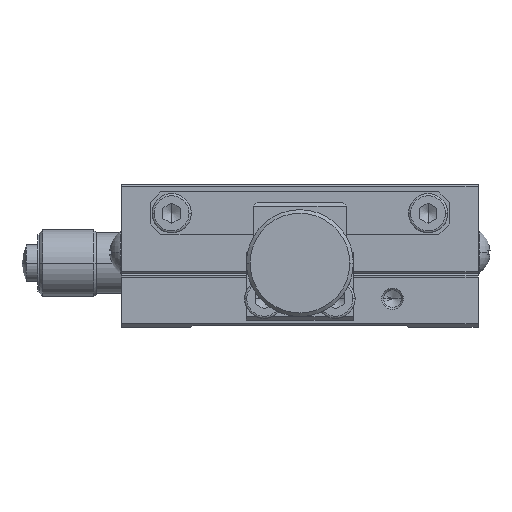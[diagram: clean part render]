
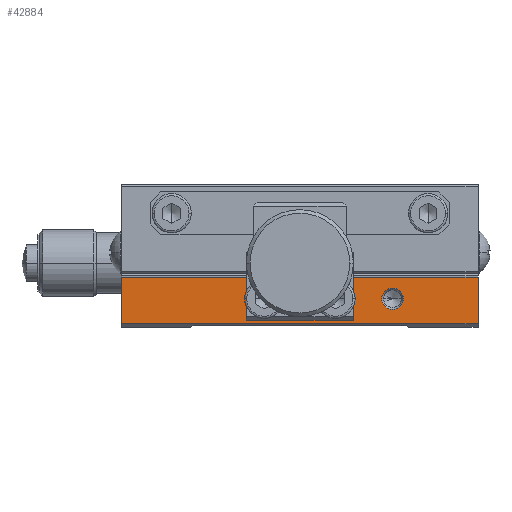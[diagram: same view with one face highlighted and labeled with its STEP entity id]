
A CAD part, left-side view. The second image highlights one B-rep face of the part: STEP entity #42884.
In plain terms, the highlighted planar face has unit normal (-1, 0, 0).
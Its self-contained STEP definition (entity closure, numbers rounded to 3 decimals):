
#20647 = CARTESIAN_POINT ( 'NONE',  ( -25., -14.5, 4. ) ) ;
#20648 = DIRECTION ( 'NONE',  ( 0., -1., 0. ) ) ;
#20649 = DIRECTION ( 'NONE',  ( -1., 0., 0. ) ) ;
#20650 = CARTESIAN_POINT ( 'NONE',  ( -25., -13., 4. ) ) ;
#20651 = AXIS2_PLACEMENT_3D ( 'NONE', #20650, #20649, #20648 ) ;
#20652 = CIRCLE ( 'NONE', #20651, 1.5 ) ;
#20653 = CARTESIAN_POINT ( 'NONE',  ( -25., -11.5, 4. ) ) ;
#22297 = LINE ( 'NONE', #22303, #22358 ) ;
#22298 = DIRECTION ( 'NONE',  ( 0., -1., 0. ) ) ;
#22299 = DIRECTION ( 'NONE',  ( -1., 0., 0. ) ) ;
#22300 = CARTESIAN_POINT ( 'NONE',  ( -25., 25., 7. ) ) ;
#22301 = AXIS2_PLACEMENT_3D ( 'NONE', #22300, #22299, #22298 ) ;
#22302 = PLANE ( 'NONE',  #22301 ) ;
#22303 = CARTESIAN_POINT ( 'NONE',  ( -25., -7.5, 7. ) ) ;
#22304 = FACE_OUTER_BOUND ( 'NONE', #42874, .T. ) ;
#22305 = FACE_BOUND ( 'NONE', #42897, .T. ) ;
#22306 = FACE_BOUND ( 'NONE', #42885, .T. ) ;
#22307 = DIRECTION ( 'NONE',  ( 0., -1., 0. ) ) ;
#22308 = VECTOR ( 'NONE', #22307, 1000. ) ;
#22309 = CARTESIAN_POINT ( 'NONE',  ( -25., 25., 7. ) ) ;
#22310 = LINE ( 'NONE', #22309, #22308 ) ;
#22311 = CARTESIAN_POINT ( 'NONE',  ( -25., 25., 0.5 ) ) ;
#22312 = DIRECTION ( 'NONE',  ( 0., 0., -1. ) ) ;
#22313 = VECTOR ( 'NONE', #22312, 1000. ) ;
#22314 = CARTESIAN_POINT ( 'NONE',  ( -25., 25., 7. ) ) ;
#22315 = LINE ( 'NONE', #22314, #22313 ) ;
#22316 = CARTESIAN_POINT ( 'NONE',  ( -25., -25., 0.5 ) ) ;
#22317 = DIRECTION ( 'NONE',  ( 0., 0., -1. ) ) ;
#22318 = VECTOR ( 'NONE', #22317, 1000. ) ;
#22319 = CARTESIAN_POINT ( 'NONE',  ( -25., -25., 7. ) ) ;
#22320 = LINE ( 'NONE', #22319, #22318 ) ;
#22321 = DIRECTION ( 'NONE',  ( 0., -1., 0. ) ) ;
#22322 = DIRECTION ( 'NONE',  ( -1., 0., 0. ) ) ;
#22323 = CARTESIAN_POINT ( 'NONE',  ( -25., -13., 4. ) ) ;
#22324 = AXIS2_PLACEMENT_3D ( 'NONE', #22323, #22322, #22321 ) ;
#22325 = CIRCLE ( 'NONE', #22324, 1.5 ) ;
#22330 = CARTESIAN_POINT ( 'NONE',  ( -25., -25., 7. ) ) ;
#22345 = CARTESIAN_POINT ( 'NONE',  ( -25., 7.5, 6. ) ) ;
#22346 = DIRECTION ( 'NONE',  ( 0., 0., 1. ) ) ;
#22347 = VECTOR ( 'NONE', #22346, 1000. ) ;
#22348 = CARTESIAN_POINT ( 'NONE',  ( -25., 7.5, 1. ) ) ;
#22349 = LINE ( 'NONE', #22348, #22347 ) ;
#22350 = CARTESIAN_POINT ( 'NONE',  ( -25., 7.5, 1. ) ) ;
#22351 = DIRECTION ( 'NONE',  ( 0., -1., 0. ) ) ;
#22352 = VECTOR ( 'NONE', #22351, 1000. ) ;
#22353 = CARTESIAN_POINT ( 'NONE',  ( -25., 25., 1. ) ) ;
#22354 = LINE ( 'NONE', #22353, #22352 ) ;
#22355 = CARTESIAN_POINT ( 'NONE',  ( -25., -7.5, 6. ) ) ;
#22356 = CARTESIAN_POINT ( 'NONE',  ( -25., -7.5, 1. ) ) ;
#22357 = DIRECTION ( 'NONE',  ( 0., 0., 1. ) ) ;
#22358 = VECTOR ( 'NONE', #22357, 1000. ) ;
#22388 = CARTESIAN_POINT ( 'NONE',  ( -25., 25., 7. ) ) ;
#22405 = DIRECTION ( 'NONE',  ( 0., -1., 0. ) ) ;
#22406 = VECTOR ( 'NONE', #22405, 1000. ) ;
#22407 = CARTESIAN_POINT ( 'NONE',  ( -25., 25., 0.5 ) ) ;
#22408 = LINE ( 'NONE', #22407, #22406 ) ;
#22439 = DIRECTION ( 'NONE',  ( 0., -1., 0. ) ) ;
#22440 = VECTOR ( 'NONE', #22439, 1000. ) ;
#22441 = CARTESIAN_POINT ( 'NONE',  ( -25., 7.5, 6. ) ) ;
#22442 = LINE ( 'NONE', #22441, #22440 ) ;
#41992 = VERTEX_POINT ( 'NONE', #20653 ) ;
#41994 = EDGE_CURVE ( 'NONE', #41992, #41995, #20652, .T. ) ;
#41995 = VERTEX_POINT ( 'NONE', #20647 ) ;
#42872 = EDGE_CURVE ( 'NONE', #41995, #41992, #22325, .T. ) ;
#42873 = ORIENTED_EDGE ( 'NONE', *, *, #41994, .F. ) ;
#42874 = EDGE_LOOP ( 'NONE', ( #42875, #42878, #42879, #42937 ) ) ;
#42875 = ORIENTED_EDGE ( 'NONE', *, *, #42876, .F. ) ;
#42876 = EDGE_CURVE ( 'NONE', #42907, #42877, #22320, .T. ) ;
#42877 = VERTEX_POINT ( 'NONE', #22316 ) ;
#42878 = ORIENTED_EDGE ( 'NONE', *, *, #42883, .F. ) ;
#42879 = ORIENTED_EDGE ( 'NONE', *, *, #42880, .T. ) ;
#42880 = EDGE_CURVE ( 'NONE', #42911, #42881, #22315, .T. ) ;
#42881 = VERTEX_POINT ( 'NONE', #22311 ) ;
#42883 = EDGE_CURVE ( 'NONE', #42911, #42907, #22310, .T. ) ;
#42884 = ADVANCED_FACE ( 'NONE', ( #22306, #22305, #22304 ), #22302, .T. ) ;
#42885 = EDGE_LOOP ( 'NONE', ( #42886, #42890, #42893, #42896 ) ) ;
#42886 = ORIENTED_EDGE ( 'NONE', *, *, #42887, .F. ) ;
#42887 = EDGE_CURVE ( 'NONE', #42888, #42889, #22297, .T. ) ;
#42888 = VERTEX_POINT ( 'NONE', #22356 ) ;
#42889 = VERTEX_POINT ( 'NONE', #22355 ) ;
#42890 = ORIENTED_EDGE ( 'NONE', *, *, #42891, .F. ) ;
#42891 = EDGE_CURVE ( 'NONE', #42892, #42888, #22354, .T. ) ;
#42892 = VERTEX_POINT ( 'NONE', #22350 ) ;
#42893 = ORIENTED_EDGE ( 'NONE', *, *, #42894, .T. ) ;
#42894 = EDGE_CURVE ( 'NONE', #42892, #42895, #22349, .T. ) ;
#42895 = VERTEX_POINT ( 'NONE', #22345 ) ;
#42896 = ORIENTED_EDGE ( 'NONE', *, *, #42952, .T. ) ;
#42897 = EDGE_LOOP ( 'NONE', ( #42953, #42873 ) ) ;
#42907 = VERTEX_POINT ( 'NONE', #22330 ) ;
#42911 = VERTEX_POINT ( 'NONE', #22388 ) ;
#42937 = ORIENTED_EDGE ( 'NONE', *, *, #42938, .T. ) ;
#42938 = EDGE_CURVE ( 'NONE', #42881, #42877, #22408, .T. ) ;
#42952 = EDGE_CURVE ( 'NONE', #42895, #42889, #22442, .T. ) ;
#42953 = ORIENTED_EDGE ( 'NONE', *, *, #42872, .F. ) ;
